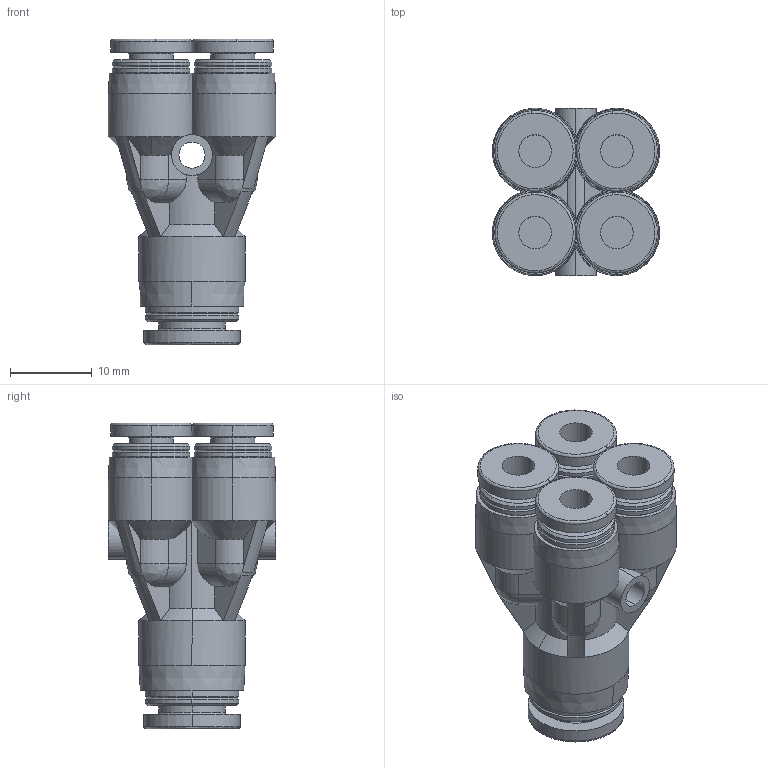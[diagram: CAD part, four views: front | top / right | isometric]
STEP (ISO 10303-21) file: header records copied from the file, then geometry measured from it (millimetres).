
FILE_DESCRIPTION (( 'STEP AP214' ), '1' );
FILE_NAME ('KQ2UD04-06A.STEP', '2023-03-06T07:21:07', ( 'Windows User' ), ( 'P R C' ), 'SwSTEP 2.0', 'SolidWorks 2019', '' );
FILE_SCHEMA (( 'AUTOMOTIVE_DESIGN' ));
Length unit declared in the file: millimetre
Products named in the file (1): KQ2UD04-06A
Bounding box: 20.5 x 20.5 x 37.45 mm (x, y, z)
Volume: 6141.4 mm3; surface area: 5075 mm2
Topology: 1 solids, 1 shells, 263 faces, 667 edges, 419 vertices
Faces by surface type: cylinder 93, cone 88, plane 50, bspline 32
Entity records: 10026 total; most frequent: CARTESIAN_POINT 3746, DIRECTION 1348, ORIENTED_EDGE 1318, EDGE_CURVE 659, AXIS2_PLACEMENT_3D 571, VERTEX_POINT 419, CIRCLE 339, EDGE_LOOP 286
